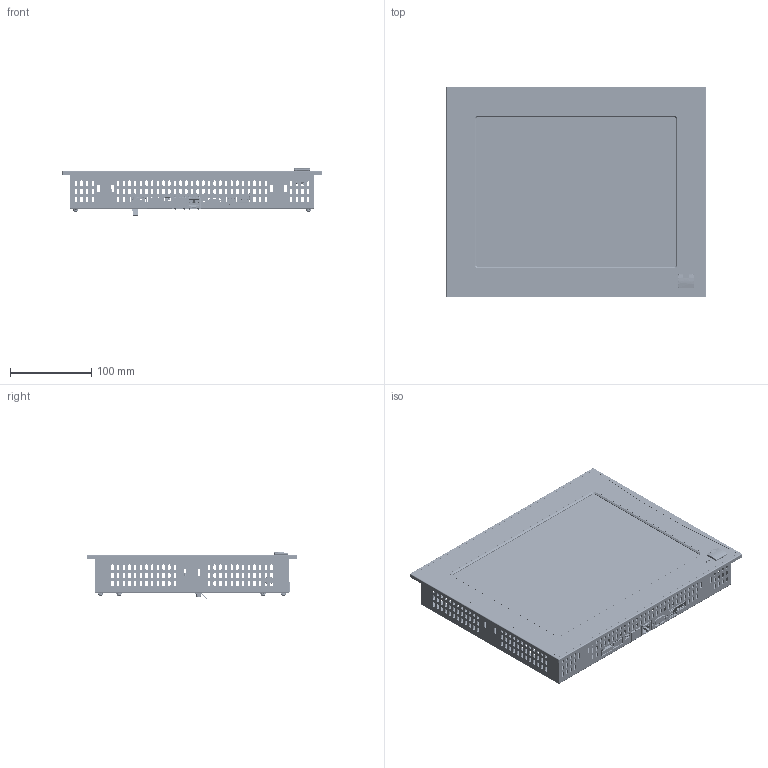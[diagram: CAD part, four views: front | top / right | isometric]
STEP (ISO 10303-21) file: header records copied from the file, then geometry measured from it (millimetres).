
FILE_DESCRIPTION (( 'STEP AP214' ), '1' );
FILE_NAME ('ETV1251 12-230-1251.STEP', '2020-11-10T08:56:26', ( 'Windows-Benutzer' ), ( '' ), 'SwSTEP 2.0', 'SolidWorks 2018', '' );
FILE_SCHEMA (( 'AUTOMOTIVE_DESIGN' ));
Length unit declared in the file: millimetre
Products named in the file (20): ETV1251 12-230-1251; 4080225548 MSD_CONS_PJS008-4100; Erdungsaufkleber; 4080225241 USB_MINI-B_SINGLE_90_SMD; 4080225240 FCI USB Typ-A 87583-2010rlf; Sechskantmutter EN ISO 10511 (DIN 985) - M3 - 04 St-verzinkt; 4080221139 WM_S2L-3.5_6_90G_SMT; 4080225208 M-RJSSE-5380-REVT1; 4110251205 4pol.Minicombicon-Grundgehäuse RM3,5 1937512; fh_m3_6; Abdeckung USB 9_4_4 Griffmulde oben_mit Stiftdichtung; ZM1045-1930-11 Front ETV1251; 7227775013 DMC_TP-3440S1F0_ohne Touchtail; ZM1045-1932-11 Gehäuse ETV1251; Folie ETV1251; Steckzunge 6,3 m.B. M3 DIN46244 St-verzinnt; 95300_100616_step; Flachkopfschraube ISO 7045 (DIN 7985) M3 x 6 - Z7 - 4.8 - H - A2F; 91205v11_step
Assembly tree (30 placements, depth 3):
  ETV1251 12-230-1251
    Sechskantmutter EN ISO 10511 (DIN 985) - M3 - 04 St-verzinkt
    Flachkopfschraube ISO 7045 (DIN 7985) M3 x 6 - Z7 - 4.8 - H - A2F  x10
    Steckzunge 6,3 m.B. M3 DIN46244 St-verzinnt
    ZM1045-1930-11 Front ETV1251
    7227775013 DMC_TP-3440S1F0_ohne Touchtail
    ZM1045-1932-11 Gehäuse ETV1251
      ZM1045-1932-11 Gehäuse ETV1251
      fh_m3_6
    Abdeckung USB 9_4_4 Griffmulde oben_mit Stiftdichtung
    Folie ETV1251
    95300_100616_step
      4080225240 FCI USB Typ-A 87583-2010rlf
    Erdungsaufkleber
    91205v11_step
      4080225548 MSD_CONS_PJS008-4100
      4080221139 WM_S2L-3.5_6_90G_SMT
      4080225241 USB_MINI-B_SINGLE_90_SMD
      4080225240 FCI USB Typ-A 87583-2010rlf
      4080225208 M-RJSSE-5380-REVT1  x2
      4110251205 4pol.Minicombicon-Grundgehäuse RM3,5 1937512
Bounding box: 320 x 260 x 58.31 mm (x, y, z)
Volume: 382189.1 mm3; surface area: 485435.7 mm2
Topology: 27 solids, 33 shells, 8449 faces, 23650 edges, 15307 vertices
Faces by surface type: plane 5184, cylinder 2764, bspline 329, cone 96, torus 54, sphere 22
Full cylindrical faces by diameter (mm): 0.2 x1, 0.9 x1
Entity records: 253808 total; most frequent: CARTESIAN_POINT 52529, ORIENTED_EDGE 38318, DIRECTION 35918, EDGE_CURVE 19164, VECTOR 13390, LINE 13390, VERTEX_POINT 12510, AXIS2_PLACEMENT_3D 11264
